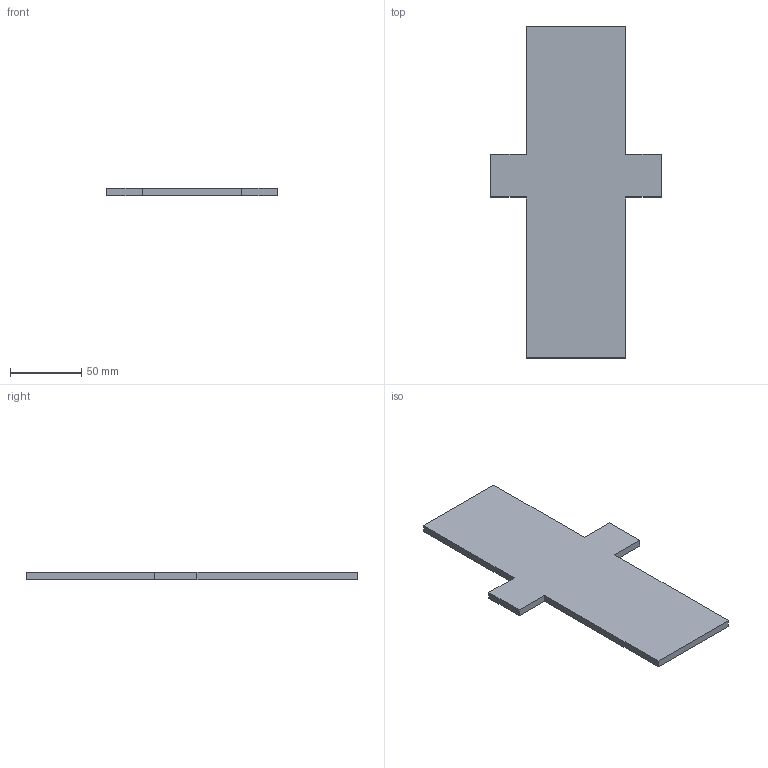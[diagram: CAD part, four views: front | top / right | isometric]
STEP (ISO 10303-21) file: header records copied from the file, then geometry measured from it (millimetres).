
FILE_DESCRIPTION(('HOOPS Exchange Step'),'2;1');
FILE_NAME('/private/var/mobile/Containers/Data/Application/DD97EE40-877A-4DB0-A56E-7A8C64E57733/tmp/export/temp_export','2025-11-06T20:57:39+08:00',('mobile'),('Shapr3D Limited'),'HOOPS Exchange 2025.5','Shapr3D','Authorized');
FILE_SCHEMA( ('AP242_MANAGED_MODEL_BASED_3D_ENGINEERING_MIM_LF {1 0 10303 442 1 1 4}') );
Length unit declared in the file: millimetre
Products named in the file (1): 实体  04
Bounding box: 119.6 x 232.6 x 5 mm (x, y, z)
Volume: 88444.8 mm3; surface area: 38899.9 mm2
Topology: 1 solids, 1 shells, 14 faces, 36 edges, 24 vertices
Faces by surface type: plane 14
Entity records: 456 total; most frequent: CARTESIAN_POINT 76, ORIENTED_EDGE 72, DIRECTION 68, VECTOR 36, LINE 36, EDGE_CURVE 36, VERTEX_POINT 24, AXIS2_PLACEMENT_3D 16
